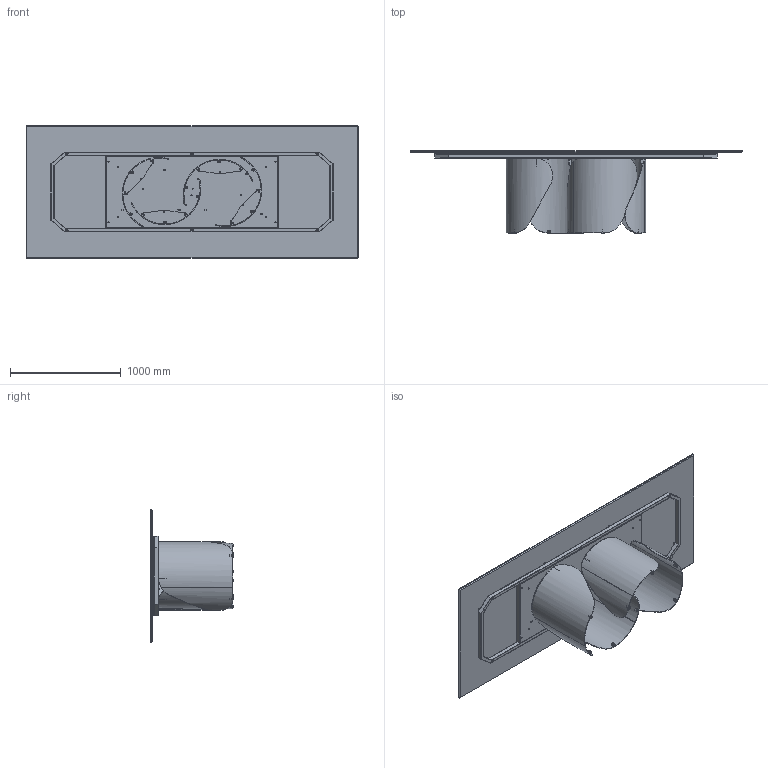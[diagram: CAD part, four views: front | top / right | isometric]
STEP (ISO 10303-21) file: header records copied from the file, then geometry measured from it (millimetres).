
FILE_DESCRIPTION (( 'STEP AP203' ), '1' );
FILE_NAME ('ON24C.STEP', '2024-08-06T13:42:32', ( '' ), ( '' ), 'SwSTEP 2.0', 'SolidWorks 2022', '' );
FILE_SCHEMA (( 'CONFIG_CONTROL_DESIGN' ));
Length unit declared in the file: millimetre
Products named in the file (15): COLLO TELAIO UNIVERSALE TTAV07 CON FERRAMENTA_MTG TOP CRISTALLO VERNICIATO-CERAMICA; TTAV07-04-TELAIO X TAVOLI PLAI ONDA NOA 300; TTAV07_01-04-STRUTTURA TAVOLI PLAI ONDA NOA 300; OND000000_02-00-CILINDRO DI FISSAGGIO Ø25X17 M8; K2XCMXX-00-Piani Rettangolari in ceramica_3000 x 1200; OND000000_01-00-PIASTRA SUPERIORE BASE ONDA; OND000000-03-ONDA BASE GREZZA; OND000000_03-00-LAMIERA CURVATA PRINCIPALE_OND00000X-00-ONDA BASE GREZZA PROTOTIPO; 434070-00-PIEDINO TPV GOMMA NERO D. 30x8max18_filo estetico; COLLO BASE ONDA SINGOLA CON FERRAMENTA; TTAV07_02-01-VASSOIO TELAIO  PLAI ONDA NOA 300; rondella M8_8X24; M8xXXmm_M8x20mm; PIEDINO PER ONDA; ON24C
Assembly tree (56 placements, depth 4):
  ON24C
    COLLO TELAIO UNIVERSALE TTAV07 CON FERRAMENTA_MTG TOP CRISTALLO VERNICIATO-CERAMICA
      TTAV07-04-TELAIO X TAVOLI PLAI ONDA NOA 300
        TTAV07_01-04-STRUTTURA TAVOLI PLAI ONDA NOA 300
        TTAV07_02-01-VASSOIO TELAIO  PLAI ONDA NOA 300
      434070-00-PIEDINO TPV GOMMA NERO D. 30x8max18_filo estetico  x8
    COLLO BASE ONDA SINGOLA CON FERRAMENTA  x4
      OND000000-03-ONDA BASE GREZZA
        OND000000_03-00-LAMIERA CURVATA PRINCIPALE_OND00000X-00-ONDA BASE GREZZA PROTOTIPO
        OND000000_01-00-PIASTRA SUPERIORE BASE ONDA
        OND000000_02-00-CILINDRO DI FISSAGGIO Ø25X17 M8  x2
      PIEDINO PER ONDA
    rondella M8_8X24  x16
    M8xXXmm_M8x20mm  x16
    K2XCMXX-00-Piani Rettangolari in ceramica_3000 x 1200
Bounding box: 3000 x 742 x 1200 mm (x, y, z)
Volume: 74953459.3 mm3; surface area: 23099468.3 mm2
Topology: 84 solids, 84 shells, 1934 faces, 4420 edges, 2696 vertices
Faces by surface type: plane 730, cylinder 676, torus 256, cone 176, bspline 80, sphere 16
Entity records: 22395 total; most frequent: CARTESIAN_POINT 5029, DIRECTION 3162, ORIENTED_EDGE 2962, EDGE_CURVE 1481, AXIS2_PLACEMENT_3D 1177, VERTEX_POINT 938, LINE 808, VECTOR 808
